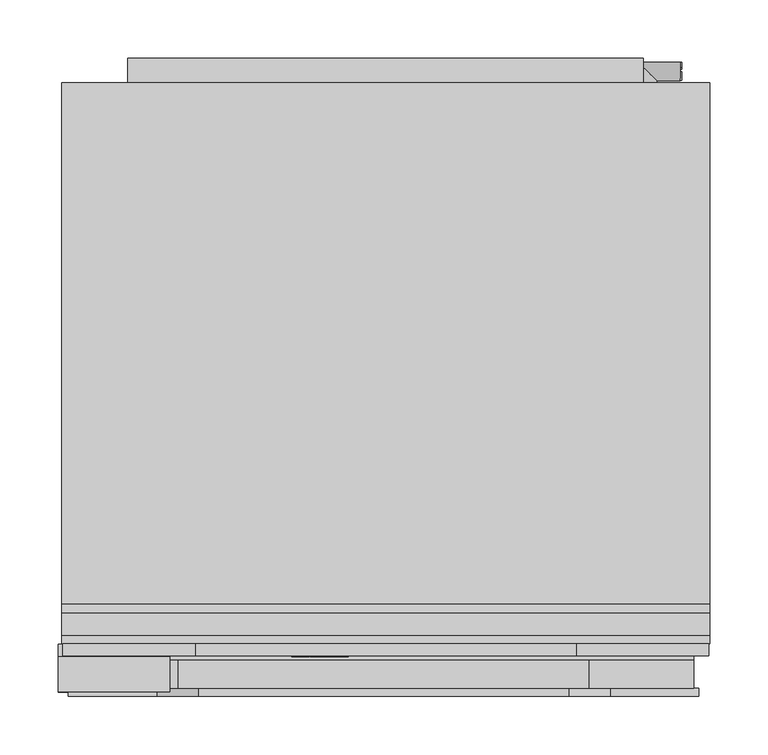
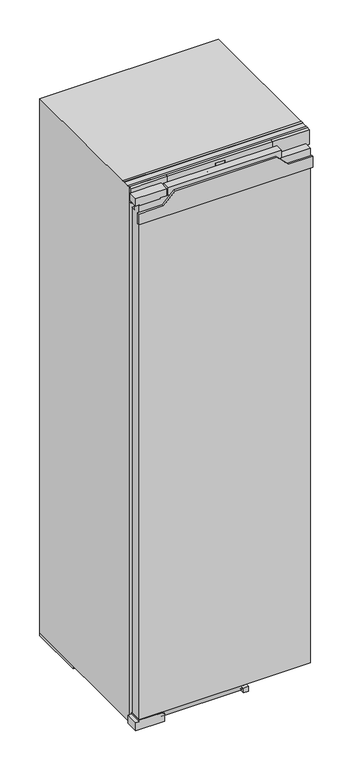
"""IFC4 building model written with IfcOpenShell, lengths in millimetres: proxy geometry, 12428680_CN_FNS7740FC : 37774000_CN_12428680_FNS7740FC."""

from ifc_helpers import new_model, si_unit, point, frame, frame_2d, origin, origin_with_axes, place, context, project, spatial, polyline, circle_curve, ellipse_curve, trimmed, segment, composite_curve, outline, extrude, faceted_brep, source, transform, mapped, element, save
from ifc_brep_helpers import plane_surface, cylinder_surface, revolved_surface, extruded_surface, advanced_brep


def specialty_equipment_1cbd8173(model_context):
    return source(origin(), model_context, "Body", "SolidModel", [
        advanced_brep(
        [(-37.4941578, 34.0, 1743.708), (-37.4941578, 34.0, 1744.516), (-32.1421578, 34.0, 1744.516), (-41.4541578, 34.0, 1744.516), (-39.2541578, 34.0, 1741.812), (-32.2781578, 34.0, 1743.708), (-34.6941578, 34.0, 1743.708), (-36.5981578, 34.0, 1742.812), (-37.4941578, 34.0, 1745.54), (-37.4941578, 34.0, 1746.412), (-36.1261578, 34.0, 1746.412), (-36.1261578, 34.0, 1745.54), (-37.4941578, 35.0, 1743.708), (-36.5981578, 35.0, 1742.812), (-34.6941578, 35.0, 1743.708), (-32.2781578, 35.0, 1743.708), (-39.2541578, 35.0, 1741.812), (-41.4541578, 35.0, 1744.516), (-32.1421578, 35.0, 1744.516), (-37.4941578, 35.0, 1744.516), (-37.4941578, 35.0, 1745.54), (-36.1261578, 35.0, 1745.54), (-36.1261578, 35.0, 1746.412), (-37.4941578, 35.0, 1746.412)],
        [
            (0, 1),
            (1, 2),
            (2, 3, ellipse_curve(frame((-36.7981578, 34.0, 1744.516), z_axis=(0.0, -1.0, 0.0), x_axis=(-1.0, 0.0, 0.0)), 4.656, 3.848)),
            (3, 4, circle_curve(frame((-38.3581141, 34.0, 1744.788), z_axis=(0.0, -1.0, 0.0), x_axis=(0.0, 0.0, -1.0)), 3.1079688)),
            (4, 5, circle_curve(frame((-36.8913642, 34.0, 1746.9), z_axis=(0.0, -1.0, 0.0), x_axis=(0.0, 0.0, -1.0)), 5.6098607)),
            (5, 6),
            (6, 7, circle_curve(frame((-36.207099, 34.0, 1744.452), z_axis=(0.0, 1.0, 0.0), x_axis=(0.0, 0.0, -1.0)), 1.6859795)),
            (7, 0, circle_curve(frame((-36.5981578, 34.0, 1743.708), z_axis=(0.0, 1.0, 0.0), x_axis=(0.0, 0.0, -1.0)), 0.896)),
            (8, 9),
            (9, 10, circle_curve(frame((-36.8101578, 34.0, 1746.412), z_axis=(0.0, 1.0, 0.0), x_axis=(0.0, 0.0, -1.0)), 0.684)),
            (10, 11),
            (11, 8),
            (12, 13, circle_curve(frame((-36.5981578, 35.0, 1743.708), z_axis=(0.0, -1.0, 0.0), x_axis=(0.0, 0.0, -1.0)), 0.896)),
            (13, 14, circle_curve(frame((-36.207099, 35.0, 1744.452), z_axis=(0.0, -1.0, 0.0), x_axis=(0.0, 0.0, -1.0)), 1.6859795)),
            (14, 15),
            (15, 16, circle_curve(frame((-36.8913642, 35.0, 1746.9), z_axis=(0.0, 1.0, 0.0), x_axis=(0.0, 0.0, -1.0)), 5.6098607)),
            (16, 17, circle_curve(frame((-38.3581141, 35.0, 1744.788), z_axis=(0.0, 1.0, 0.0), x_axis=(0.0, 0.0, -1.0)), 3.1079688)),
            (17, 18, ellipse_curve(frame((-36.7981578, 35.0, 1744.516), z_axis=(0.0, 1.0, 0.0), x_axis=(-1.0, 0.0, 0.0)), 4.656, 3.848)),
            (18, 19),
            (19, 12),
            (20, 21),
            (21, 22),
            (22, 23, circle_curve(frame((-36.8101578, 35.0, 1746.412), z_axis=(0.0, -1.0, 0.0), x_axis=(0.0, 0.0, -1.0)), 0.684)),
            (23, 20),
            (0, 12),
            (19, 1),
            (18, 2),
            (5, 15),
            (14, 6),
            (17, 3),
            (13, 7),
            (16, 4),
            (8, 20),
            (23, 9),
            (22, 10),
            (21, 11),
        ],
        [
            plane_surface(frame((-37.4941578, 34.0, 1744.516), z_axis=(0.0, -1.0, 0.0), x_axis=(0.0, 0.0, 1.0))),
            plane_surface(frame((-37.4941578, 35.0, 1744.516), z_axis=(0.0, 1.0, 0.0), x_axis=(0.0, 0.0, -1.0))),
            plane_surface(frame((-37.4941578, 34.0, 1743.708), z_axis=(1.0, 0.0, 0.0), x_axis=(0.0, 1.0, 0.0))),
            plane_surface(frame((-37.4941578, 34.0, 1744.516), z_axis=(0.0, 0.0, -1.0), x_axis=(0.0, 1.0, 0.0))),
            plane_surface(frame((-32.2781578, 34.0, 1743.708), z_axis=(0.0, 0.0, 1.0), x_axis=(0.0, 1.0, 0.0))),
            extruded_surface(trimmed(ellipse_curve(frame((-36.7981578, 36.0, 1744.516), z_axis=(0.0, -1.0, 0.0), x_axis=(-1.0, 0.0, 0.0)), 4.656, 3.848), [point((-32.1421578, 36.0, 1744.516))], [point((-41.4541578, 36.0, 1744.516))], True, "CARTESIAN"), (0.0, -1.0, 0.0), 1.0),
            revolved_surface(polyline([(-36.207099, 35.0, 1742.7660205), (-36.207099, 34.0, 1742.7660205)]), (-36.207099, 35.0, 1744.452), (0.0, 1.0, 0.0)),
            revolved_surface(polyline([(-36.5981578, 35.0, 1742.8120000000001), (-36.5981578, 34.0, 1742.8120000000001)]), (-36.5981578, 35.0, 1743.708), (0.0, 1.0, 0.0)),
            cylinder_surface(frame((-38.3581141, 35.0, 1744.788), z_axis=(0.0, -1.0, 0.0), x_axis=(0.0, 0.0, -1.0)), 3.1079688),
            cylinder_surface(frame((-36.8913642, 35.0, 1746.9), z_axis=(0.0, -1.0, 0.0), x_axis=(0.0, 0.0, -1.0)), 5.6098607),
            plane_surface(frame((-37.4941578, 34.0, 1745.54), z_axis=(1.0, 0.0, 0.0), x_axis=(0.0, 1.0, 0.0))),
            revolved_surface(polyline([(-36.8101578, 35.0, 1745.728), (-36.8101578, 34.0, 1745.728)]), (-36.8101578, 35.0, 1746.412), (0.0, 1.0, 0.0)),
            plane_surface(frame((-36.1261578, 34.0, 1746.412), z_axis=(-1.0, 0.0, 0.0), x_axis=(0.0, 1.0, 0.0))),
            plane_surface(frame((-36.1261578, 34.0, 1745.54), z_axis=(0.0, 0.0, 1.0), x_axis=(0.0, 1.0, 0.0))),
        ],
        [
            (0, [[1, 2, 3, 4, 5, 6, 7, 8], [9, 10, 11, 12]]),
            (1, [[13, 14, 15, 16, 17, 18, 19, 20], [21, 22, 23, 24]]),
            (2, [[-1, 25, -20, 26]]),
            (3, [[-2, -26, -19, 27]]),
            (4, [[-6, 28, -15, 29]]),
            (5, [[-3, -27, -18, 30]]),
            (6, [[-7, -29, -14, 31]]),
            (7, [[-8, -31, -13, -25]]),
            (8, [[-4, -30, -17, 32]]),
            (9, [[-5, -32, -16, -28]]),
            (10, [[-9, 33, -24, 34]]),
            (11, [[-10, -34, -23, 35]]),
            (12, [[-11, -35, -22, 36]]),
            (13, [[-12, -36, -21, -33]]),
        ],
    ),
        advanced_brep(
        [(-54.1901578, 34.0, 1743.708), (-54.1901578, 34.0, 1744.516), (-48.8381578, 34.0, 1744.516), (-58.1501578, 34.0, 1744.516), (-55.9501578, 34.0, 1741.812), (-48.9741578, 34.0, 1743.708), (-51.3901578, 34.0, 1743.708), (-53.2941578, 34.0, 1742.812), (-54.1901578, 34.0, 1745.54), (-54.1901578, 34.0, 1746.412), (-52.8221578, 34.0, 1746.412), (-52.8221578, 34.0, 1745.54), (-54.1901578, 35.0, 1743.708), (-53.2941578, 35.0, 1742.812), (-51.3901578, 35.0, 1743.708), (-48.9741578, 35.0, 1743.708), (-55.9501578, 35.0, 1741.812), (-58.1501578, 35.0, 1744.516), (-48.8381578, 35.0, 1744.516), (-54.1901578, 35.0, 1744.516), (-54.1901578, 35.0, 1745.54), (-52.8221578, 35.0, 1745.54), (-52.8221578, 35.0, 1746.412), (-54.1901578, 35.0, 1746.412)],
        [
            (0, 1),
            (1, 2),
            (2, 3, ellipse_curve(frame((-53.4941578, 34.0, 1744.516), z_axis=(0.0, -1.0, 0.0), x_axis=(-1.0, 0.0, 0.0)), 4.656, 3.848)),
            (3, 4, circle_curve(frame((-55.0541141, 34.0, 1744.788), z_axis=(0.0, -1.0, 0.0), x_axis=(0.0, 0.0, -1.0)), 3.1079688)),
            (4, 5, circle_curve(frame((-53.5873642, 34.0, 1746.9), z_axis=(0.0, -1.0, 0.0), x_axis=(0.0, 0.0, -1.0)), 5.6098607)),
            (5, 6),
            (6, 7, circle_curve(frame((-52.903099, 34.0, 1744.452), z_axis=(0.0, 1.0, 0.0), x_axis=(0.0, 0.0, -1.0)), 1.6859795)),
            (7, 0, circle_curve(frame((-53.2941578, 34.0, 1743.708), z_axis=(0.0, 1.0, 0.0), x_axis=(0.0, 0.0, -1.0)), 0.896)),
            (8, 9),
            (9, 10, circle_curve(frame((-53.5061578, 34.0, 1746.412), z_axis=(0.0, 1.0, 0.0), x_axis=(0.0, 0.0, -1.0)), 0.684)),
            (10, 11),
            (11, 8),
            (12, 13, circle_curve(frame((-53.2941578, 35.0, 1743.708), z_axis=(0.0, -1.0, 0.0), x_axis=(0.0, 0.0, -1.0)), 0.896)),
            (13, 14, circle_curve(frame((-52.903099, 35.0, 1744.452), z_axis=(0.0, -1.0, 0.0), x_axis=(0.0, 0.0, -1.0)), 1.6859795)),
            (14, 15),
            (15, 16, circle_curve(frame((-53.5873642, 35.0, 1746.9), z_axis=(0.0, 1.0, 0.0), x_axis=(0.0, 0.0, -1.0)), 5.6098607)),
            (16, 17, circle_curve(frame((-55.0541141, 35.0, 1744.788), z_axis=(0.0, 1.0, 0.0), x_axis=(0.0, 0.0, -1.0)), 3.1079688)),
            (17, 18, ellipse_curve(frame((-53.4941578, 35.0, 1744.516), z_axis=(0.0, 1.0, 0.0), x_axis=(-1.0, 0.0, 0.0)), 4.656, 3.848)),
            (18, 19),
            (19, 12),
            (20, 21),
            (21, 22),
            (22, 23, circle_curve(frame((-53.5061578, 35.0, 1746.412), z_axis=(0.0, -1.0, 0.0), x_axis=(0.0, 0.0, -1.0)), 0.684)),
            (23, 20),
            (0, 12),
            (19, 1),
            (18, 2),
            (5, 15),
            (14, 6),
            (17, 3),
            (13, 7),
            (16, 4),
            (8, 20),
            (23, 9),
            (22, 10),
            (21, 11),
        ],
        [
            plane_surface(frame((-54.1901578, 34.0, 1744.516), z_axis=(0.0, -1.0, 0.0), x_axis=(0.0, 0.0, 1.0))),
            plane_surface(frame((-54.1901578, 35.0, 1744.516), z_axis=(0.0, 1.0, 0.0), x_axis=(0.0, 0.0, -1.0))),
            plane_surface(frame((-54.1901578, 34.0, 1743.708), z_axis=(1.0, 0.0, 0.0), x_axis=(0.0, 1.0, 0.0))),
            plane_surface(frame((-54.1901578, 34.0, 1744.516), z_axis=(0.0, 0.0, -1.0), x_axis=(0.0, 1.0, 0.0))),
            plane_surface(frame((-48.9741578, 34.0, 1743.708), z_axis=(0.0, 0.0, 1.0), x_axis=(0.0, 1.0, 0.0))),
            extruded_surface(trimmed(ellipse_curve(frame((-53.4941578, 36.0, 1744.516), z_axis=(0.0, -1.0, 0.0), x_axis=(-1.0, 0.0, 0.0)), 4.656, 3.848), [point((-48.8381578, 36.0, 1744.516))], [point((-58.1501578, 36.0, 1744.516))], True, "CARTESIAN"), (0.0, -1.0, 0.0), 1.0),
            revolved_surface(polyline([(-52.903099, 35.0, 1742.7660205), (-52.903099, 34.0, 1742.7660205)]), (-52.903099, 35.0, 1744.452), (0.0, 1.0, 0.0)),
            revolved_surface(polyline([(-53.2941578, 35.0, 1742.8120000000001), (-53.2941578, 34.0, 1742.8120000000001)]), (-53.2941578, 35.0, 1743.708), (0.0, 1.0, 0.0)),
            cylinder_surface(frame((-55.0541141, 35.0, 1744.788), z_axis=(0.0, -1.0, 0.0), x_axis=(0.0, 0.0, -1.0)), 3.1079688),
            cylinder_surface(frame((-53.5873642, 35.0, 1746.9), z_axis=(0.0, -1.0, 0.0), x_axis=(0.0, 0.0, -1.0)), 5.6098607),
            plane_surface(frame((-54.1901578, 34.0, 1745.54), z_axis=(1.0, 0.0, 0.0), x_axis=(0.0, 1.0, 0.0))),
            revolved_surface(polyline([(-53.5061578, 35.0, 1745.728), (-53.5061578, 34.0, 1745.728)]), (-53.5061578, 35.0, 1746.412), (0.0, 1.0, 0.0)),
            plane_surface(frame((-52.8221578, 34.0, 1746.412), z_axis=(-1.0, 0.0, 0.0), x_axis=(0.0, 1.0, 0.0))),
            plane_surface(frame((-52.8221578, 34.0, 1745.54), z_axis=(0.0, 0.0, 1.0), x_axis=(0.0, 1.0, 0.0))),
        ],
        [
            (0, [[1, 2, 3, 4, 5, 6, 7, 8], [9, 10, 11, 12]]),
            (1, [[13, 14, 15, 16, 17, 18, 19, 20], [21, 22, 23, 24]]),
            (2, [[-1, 25, -20, 26]]),
            (3, [[-2, -26, -19, 27]]),
            (4, [[-6, 28, -15, 29]]),
            (5, [[-3, -27, -18, 30]]),
            (6, [[-7, -29, -14, 31]]),
            (7, [[-8, -31, -13, -25]]),
            (8, [[-4, -30, -17, 32]]),
            (9, [[-5, -32, -16, -28]]),
            (10, [[-9, 33, -24, 34]]),
            (11, [[-10, -34, -23, 35]]),
            (12, [[-11, -35, -22, 36]]),
            (13, [[-12, -36, -21, -33]]),
        ],
    ),
        extrude(outline(polyline([(1749.34, -62.9341578), (1748.044, -62.3261578), (1749.308, -59.6141578), (1750.604, -60.2141578), (1749.34, -62.9341578)])), frame((0.0, 34.0, 0.0), z_axis=(0.0, 1.0, 0.0), x_axis=(0.0, 0.0, 1.0)), (0.0, 0.0, 1.0), 1.0),
        extrude(outline(polyline([(1747.868, -64.9101578), (1746.436, -64.9101578), (1746.436, -63.9581578), (1743.156, -63.9581578), (1743.156, -64.9101578), (1741.812, -64.9101578), (1741.812, -58.5981578), (1743.156, -58.5981578), (1743.156, -59.5261578), (1747.868, -59.5261578), (1747.868, -64.9101578)])), frame((0.0, 34.0, 0.0), z_axis=(0.0, 1.0, 0.0), x_axis=(0.0, 0.0, 1.0)), (0.0, 0.0, 1.0), 1.0),
        extrude(outline(polyline([(1748.508, -48.3901578), (1748.508, -47.4301578), (1743.156, -47.4301578), (1743.156, -48.3901578), (1741.812, -48.3901578), (1741.812, -41.9021578), (1743.156, -41.9021578), (1743.156, -42.8861578), (1749.812, -42.8861578), (1749.812, -48.3901578), (1748.508, -48.3901578)])), frame((0.0, 34.0, 0.0), z_axis=(0.0, 1.0, 0.0), x_axis=(0.0, 0.0, 1.0)), (0.0, 0.0, 1.0), 1.0),
        extrude(outline(polyline([(1748.508, -80.8541578), (1748.508, -79.8861578), (1743.156, -79.8861578), (1743.156, -80.8541578), (1741.812, -80.8541578), (1741.812, -77.3341578), (1743.156, -77.3341578), (1743.156, -78.2941578), (1746.5591247, -78.2941578), (1741.812, -74.7181578), (1746.6272223, -71.1261578), (1743.156, -71.1261578), (1743.156, -72.1101578), (1741.812, -72.1101578), (1741.812, -65.7261578), (1743.156, -65.7261578), (1743.156, -66.7421578), (1748.508, -66.7421578), (1748.508, -65.7261578), (1749.812, -65.7261578), (1749.812, -70.5981578), (1746.812, -72.9341578), (1749.812, -75.2781578), (1749.812, -80.8541578), (1748.508, -80.8541578)])), frame((0.0, 34.0, 0.0), z_axis=(0.0, 1.0, 0.0), x_axis=(0.0, 0.0, 1.0)), (0.0, 0.0, 1.0), 1.0),
        faceted_brep([(163.6458422, 35.0, 1770.0), (-163.3541578, 35.0, 1770.0), (-163.3541578, 35.0, 1721.0), (163.6458422, 35.0, 1721.0), (15.1458422, 35.0, 1761.0), (15.1458422, 35.0, 1731.0), (-14.8541578, 35.0, 1731.0), (-14.8541578, 35.0, 1761.0), (163.6458422, 45.0, 1770.0), (163.6458422, 45.0, 1721.0), (-163.3541578, 45.0, 1721.0), (-163.3541578, 45.0, 1770.0), (15.1458422, 36.0, 1761.0), (-14.8541578, 36.0, 1761.0), (-14.8541578, 36.0, 1731.0), (15.1458422, 36.0, 1731.0)], [[[0, 1, 2, 3], [4, 5, 6, 7]], [[8, 9, 10, 11]], [[0, 3, 9, 8]], [[3, 2, 10, 9]], [[2, 1, 11, 10]], [[1, 0, 8, 11]], [[12, 13, 14, 15]], [[12, 15, 5, 4]], [[15, 14, 6, 5]], [[14, 13, 7, 6]], [[13, 12, 4, 7]]]),
        extrude(outline(polyline([(163.6458422, 45.0), (277.6458422, 45.0), (277.6458422, 35.0), (163.6458422, 35.0), (163.6458422, 45.0)])), frame((0.0, 0.0, 1721.0), z_axis=(0.0, 0.0, 1.0), x_axis=(1.0, 0.0, 0.0)), (0.0, 0.0, 1.0), 49.0),
        extrude(outline(polyline([(-277.3541578, 45.0), (-163.3541578, 45.0), (-163.3541578, 35.0), (-277.3541578, 35.0), (-277.3541578, 45.0)])), frame((0.0, 0.0, 1721.0), z_axis=(0.0, 0.0, 1.0), x_axis=(1.0, 0.0, 0.0)), (0.0, 0.0, 1.0), 49.0),
        extrude(outline(polyline([(-14.8541578, 36.0), (15.1458422, 36.0), (15.1458422, 35.0), (-14.8541578, 35.0), (-14.8541578, 36.0)])), frame((0.0, 0.0, 1731.0), z_axis=(0.0, 0.0, 1.0), x_axis=(1.0, 0.0, 0.0)), (0.0, 0.0, 1.0), 30.0),
        extrude(outline(polyline([(1669.8, 269.1194317), (1705.8, 269.1194317), (1705.8, 193.1194317), (1741.8, 157.1194317), (1741.8, -160.8805683), (1705.8, -196.8805683), (1705.8, -272.8805683), (1669.8, -272.8805683), (1669.8, 269.1194317)])), frame((0.0, 0.0, 0.0), z_axis=(0.0, 1.0, 0.0), x_axis=(0.0, 0.0, 1.0)), (0.0, 0.0, 1.0), 7.0),
        extrude(outline(polyline([(57.1194317, 42.0), (72.1194317, 42.0), (72.1194317, 8.0), (57.1194317, 8.0), (57.1194317, 42.0)])), frame((0.0, 0.0, 9.8), z_axis=(0.0, 0.0, 1.0), x_axis=(1.0, 0.0, 0.0)), (0.0, 0.0, 1.0), 15.0),
        extrude(outline(composite_curve([segment(trimmed(circle_curve(frame_2d((63.6194317, 25.0)), 6.5), [point((70.1194317, 25.0))], [point((57.1194317, 25.0))], False, "CARTESIAN"), True, "CONTINUOUS"), segment(trimmed(circle_curve(frame_2d((63.6194317, 25.0)), 6.5), [point((57.1194317, 25.0))], [point((70.1194317, 25.0))], False, "CARTESIAN"), True, "CONTINUOUS")], self_intersect=False)), frame((0.0, 0.0, 24.8), z_axis=(0.0, 0.0, 1.0), x_axis=(1.0, 0.0, 0.0)), (0.0, 0.0, 1.0), 11.0),
        extrude(outline(polyline([(174.6194317, 7.0), (-178.3805683, 7.0), (-178.3805683, 31.0), (174.6194317, 31.0), (174.6194317, 7.0)])), frame((0.0, 0.0, 1729.8), z_axis=(0.0, 0.0, 1.0), x_axis=(1.0, 0.0, 0.0)), (0.0, 0.0, 1.0), 25.0),
        extrude(outline(polyline([(7.0, 35.8), (7.0, 1729.8), (31.0, 1729.8), (31.0, 1699.8), (45.0, 1699.8), (45.0, 35.8), (7.0, 35.8)])), frame((-268.3805683, 0.0, 0.0), z_axis=(1.0, 0.0, 0.0), x_axis=(0.0, 1.0, 0.0)), (0.0, 0.0, 1.0), 533.0),
        extrude(outline(polyline([(35.8, -197.3805683), (35.8, -270.3805683), (31.8, -270.3805683), (31.8, -281.3805683), (4.8, -281.3805683), (4.8, -191.3805683), (31.8, -191.3805683), (31.8, -197.3805683), (35.8, -197.3805683)])), frame((0.0, 4.0, 0.0), z_axis=(0.0, 1.0, 0.0), x_axis=(0.0, 0.0, 1.0)), (0.0, 0.0, 1.0), 41.0),
        extrude(outline(polyline([(1756.8, -281.3805683), (1732.8, -281.3805683), (1732.8, -271.3805683), (1729.8, -271.3805683), (1729.8, -205.3805683), (1732.8, -205.3805683), (1732.8, -185.3805683), (1756.8, -185.3805683), (1756.8, -281.3805683)])), frame((0.0, 4.0, 0.0), z_axis=(0.0, 1.0, 0.0), x_axis=(0.0, 0.0, 1.0)), (0.0, 0.0, 1.0), 30.0),
        extrude(outline(composite_curve([segment(trimmed(circle_curve(frame_2d((25.0, 18.8)), 6.0), [point((25.0, 24.8))], [point((25.0, 12.8))], False, "CARTESIAN"), True, "CONTINUOUS"), segment(trimmed(circle_curve(frame_2d((25.0, 18.8)), 6.0), [point((25.0, 12.8))], [point((25.0, 24.8))], False, "CARTESIAN"), True, "CONTINUOUS")], self_intersect=False)), frame((41.1194317, 0.0, 0.0), z_axis=(1.0, 0.0, 0.0), x_axis=(0.0, 1.0, 0.0)), (0.0, 0.0, 1.0), 16.0),
        extrude(outline(composite_curve([segment(trimmed(circle_curve(frame_2d((25.0, 18.8)), 9.0), [point((25.0, 27.8))], [point((25.0, 9.8))], False, "CARTESIAN"), True, "CONTINUOUS"), segment(trimmed(circle_curve(frame_2d((25.0, 18.8)), 9.0), [point((25.0, 9.8))], [point((25.0, 27.8))], False, "CARTESIAN"), True, "CONTINUOUS")], self_intersect=False)), frame((-191.3805683, 0.0, 0.0), z_axis=(1.0, 0.0, 0.0), x_axis=(0.0, 1.0, 0.0)), (0.0, 0.0, 1.0), 248.5),
        extrude(outline(polyline([(208.5, 487.0), (208.5, 309.0), (-208.5, 309.0), (-208.5, 487.0), (208.5, 487.0)])), frame((0.0, 0.0, 80.0), z_axis=(0.0, 0.0, 1.0), x_axis=(1.0, 0.0, 0.0)), (0.0, 0.0, 1.0), 217.0),
        extrude(outline(polyline([(208.5, 87.0), (-208.5, 87.0), (-208.5, 487.0), (208.5, 487.0), (208.5, 87.0)])), frame((0.0, 0.0, 1587.0), z_axis=(0.0, 0.0, 1.0), x_axis=(1.0, 0.0, 0.0)), (0.0, 0.0, 1.0), 100.0),
        faceted_brep([(278.5, 527.0, 1768.0), (-278.5, 527.0, 1768.0), (-278.5, 45.0, 1768.0), (278.5, 45.0, 1768.0), (278.5, 527.0, 9.0), (278.5, 45.0, 9.0), (-278.5, 45.0, 9.0), (-278.5, 527.0, 9.0), (-208.5, 45.0, 1687.0), (208.5, 45.0, 1687.0), (208.5, 45.0, 80.0), (-208.5, 45.0, 80.0), (208.5, 487.0, 1687.0), (-208.5, 487.0, 1687.0), (-208.5, 487.0, 80.0), (208.5, 487.0, 80.0)], [[[0, 1, 2, 3]], [[4, 5, 6, 7]], [[1, 0, 4, 7]], [[2, 1, 7, 6]], [[3, 2, 6, 5], [8, 9, 10, 11]], [[0, 3, 5, 4]], [[12, 13, 14, 15]], [[13, 12, 9, 8]], [[14, 13, 8, 11]], [[15, 14, 11, 10]], [[12, 15, 10, 9]]]),
        extrude(outline(polyline([(278.5, 52.0), (278.5, 45.0), (-278.5, 45.0), (-278.5, 52.0), (278.5, 52.0)])), frame((0.0, 0.0, 1768.0), z_axis=(0.0, 0.0, 1.0), x_axis=(1.0, 0.0, 0.0)), (0.0, 0.0, 1.0), 2.0),
        extrude(outline(polyline([(278.5, 79.0), (278.5, 72.0), (-278.5, 72.0), (-278.5, 79.0), (278.5, 79.0)])), frame((0.0, 0.0, 1768.0), z_axis=(0.0, 0.0, 1.0), x_axis=(1.0, 0.0, 0.0)), (0.0, 0.0, 1.0), 2.0),
        extrude(outline(polyline([(529.6227397, 135.8394627), (529.6227397, 145.8850937), (536.843037, 145.8850937), (536.843037, 144.6293899), (530.8784436, 144.6293899), (530.8784436, 141.6470932), (536.529111, 141.6470932), (536.529111, 140.3913893), (530.8784436, 140.3913893), (530.8784436, 137.0951666), (537.0, 137.0951666), (537.0, 135.8394627), (529.6227397, 135.8394627)])), frame((253.2418947, 0.0, 0.0), z_axis=(1.0, 0.0, 0.0), x_axis=(0.0, 1.0, 0.0)), (0.0, 0.0, 1.0), 1.0),
        extrude(outline(polyline([(538.8835558, 135.8394627), (538.8835558, 145.8850937), (540.1392597, 145.8850937), (540.1392597, 137.0951666), (545.1620752, 137.0951666), (545.1620752, 135.8394627), (538.8835558, 135.8394627)])), frame((253.2418947, 0.0, 0.0), z_axis=(1.0, 0.0, 0.0), x_axis=(0.0, 1.0, 0.0)), (0.0, 0.0, 1.0), 1.0),
        advanced_brep(
        [(232.9638051, 527.0, 140.8394627), (217.0361949, 527.0, 140.8394627), (232.9638051, 529.0361949, 140.8394627), (217.0361949, 544.9638051, 140.8394627), (253.2418947, 529.0361949, 140.8394627), (253.2418947, 544.9638051, 140.8394627)],
        [
            (0, 1, circle_curve(frame((225.0, 527.0, 140.8394627), z_axis=(0.0, -1.0, 0.0), x_axis=(-1.0, 0.0, 0.0)), 7.9638051)),
            (1, 0, circle_curve(frame((225.0, 527.0, 140.8394627), z_axis=(0.0, -1.0, 0.0), x_axis=(-1.0, 0.0, 0.0)), 7.9638051)),
            (0, 2),
            (2, 3, ellipse_curve(frame((225.0, 537.0, 140.8394627), z_axis=(-0.70710678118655, -0.707106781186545, 0.0), x_axis=(0.707106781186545, -0.7071067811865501, 0.0)), 11.2625212, 7.9638051)),
            (3, 1),
            (3, 2, ellipse_curve(frame((225.0, 537.0, 140.8394627), z_axis=(-0.70710678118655, -0.707106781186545, 0.0), x_axis=(0.707106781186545, -0.7071067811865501, 0.0)), 11.2625212, 7.9638051)),
            (4, 5, circle_curve(frame((253.2418947, 537.0, 140.8394627), z_axis=(1.0, 0.0, 0.0), x_axis=(0.0, 1.0, 0.0)), 7.9638051)),
            (5, 4, circle_curve(frame((253.2418947, 537.0, 140.8394627), z_axis=(1.0, 0.0, 0.0), x_axis=(0.0, 1.0, 0.0)), 7.9638051)),
            (2, 4),
            (5, 3),
        ],
        [
            plane_surface(frame((225.0, 527.0, 2.0), z_axis=(0.0, -1.0, 0.0), x_axis=(0.0, 0.0, 1.0))),
            cylinder_surface(frame((225.0, 527.0, 140.8394627), z_axis=(0.0, -1.0, 0.0), x_axis=(-1.0, 0.0, 0.0)), 7.9638051),
            plane_surface(frame((253.2418947, 537.0, 2.0), z_axis=(1.0, 0.0, 0.0), x_axis=(0.0, 0.0, 1.0))),
            cylinder_surface(frame((225.0, 537.0, 140.8394627), z_axis=(-1.0, 0.0, 0.0), x_axis=(0.0, 1.0, 0.0)), 7.9638051),
        ],
        [
            (0, [[1, 2]]),
            (1, [[-1, 3, 4, 5]]),
            (1, [[-2, -5, 6, -3]]),
            (2, [[7, 8]]),
            (3, [[-4, 9, -8, 10]]),
            (3, [[-6, -10, -7, -9]]),
        ],
    ),
        extrude(outline(composite_curve([segment(trimmed(circle_curve(frame_2d((-226.5, 64.6852762)), 11.0852762), [point((-237.5852762, 64.6852762))], [point((-215.4147238, 64.6852762))], False, "CARTESIAN"), True, "CONTINUOUS"), segment(trimmed(circle_curve(frame_2d((-226.5, 64.6852762)), 11.0852762), [point((-215.4147238, 64.6852762))], [point((-237.5852762, 64.6852762))], False, "CARTESIAN"), True, "CONTINUOUS")], self_intersect=False)), origin_with_axes(), (0.0, 0.0, 1.0), 9.0),
        extrude(outline(composite_curve([segment(trimmed(circle_curve(frame_2d((226.5, 64.6852762)), 11.0852762), [point((215.4147238, 64.6852762))], [point((237.5852762, 64.6852762))], False, "CARTESIAN"), True, "CONTINUOUS"), segment(trimmed(circle_curve(frame_2d((226.5, 64.6852762)), 11.0852762), [point((237.5852762, 64.6852762))], [point((215.4147238, 64.6852762))], False, "CARTESIAN"), True, "CONTINUOUS")], self_intersect=False)), origin_with_axes(), (0.0, 0.0, 1.0), 9.0),
        extrude(outline(polyline([(-175.9047649, 94.122951), (-193.5137281, 345.9428573), (-168.5746269, 347.6867691), (-150.9656637, 95.8668628), (-175.9047649, 94.122951)])), frame((0.0, 0.0, 2.0), z_axis=(0.0, 0.0, 1.0), x_axis=(1.0, 0.0, 0.0)), (0.0, 0.0, 1.0), 7.0),
        extrude(outline(polyline([(175.9047649, 94.122951), (150.9656637, 95.8668628), (168.5777725, 347.7317536), (193.5168738, 345.9878417), (175.9047649, 94.122951)])), frame((0.0, 0.0, 2.0), z_axis=(0.0, 0.0, 1.0), x_axis=(1.0, 0.0, 0.0)), (0.0, 0.0, 1.0), 7.0),
        extrude(outline(polyline([(278.5, 347.71), (-278.5, 347.71), (-278.5, 527.0), (278.5, 527.0), (278.5, 347.71)])), origin_with_axes(), (0.0, 0.0, 1.0), 9.0),
        extrude(outline(polyline([(1712.0, 221.5), (1712.0, -221.5), (23.0, -221.5), (23.0, 221.5), (131.0534782, 221.5), (131.0534782, 212.5555072), (151.6704825, 212.5555072), (151.6704825, 221.5), (1712.0, 221.5)])), frame((0.0, 527.0, 0.0), z_axis=(0.0, 1.0, 0.0), x_axis=(0.0, 0.0, 1.0)), (0.0, 0.0, 1.0), 21.28),
    ])


if __name__ == "__main__":
    model = new_model("IFC4")
    model_context = context("Model", 3, world=origin())
    ifc_project = project(units=[si_unit("LENGTHUNIT", "METRE", prefix="MILLI")], contexts=[model_context])
    site = spatial("IfcSite", under=ifc_project)
    building = spatial("IfcBuilding", under=site)
    placement = place(None, origin())
    specialty_equipment_shape = specialty_equipment_1cbd8173(model_context)
    element("IfcBuildingElementProxy", 1, Name="12428680_CN_FNS7740FC : 37774000_CN_12428680_FNS7740FC", ObjectType="12428680_CN_FNS7740FC : 37774000_CN_12428680_FNS7740FC", at=placement, inside=building, context=model_context, shape_type="MappedRepresentation", body=[
        mapped(specialty_equipment_shape, transform((0.0, 0.0, 0.0), x_axis=(1.0, 0.0, 0.0), y_axis=(0.0, 1.0, 0.0), z_axis=(0.0, 0.0, 1.0))),
    ])
    save(model, "model.ifc")
